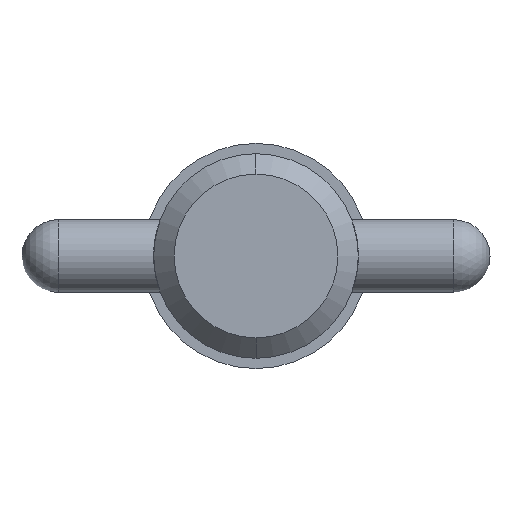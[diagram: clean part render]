
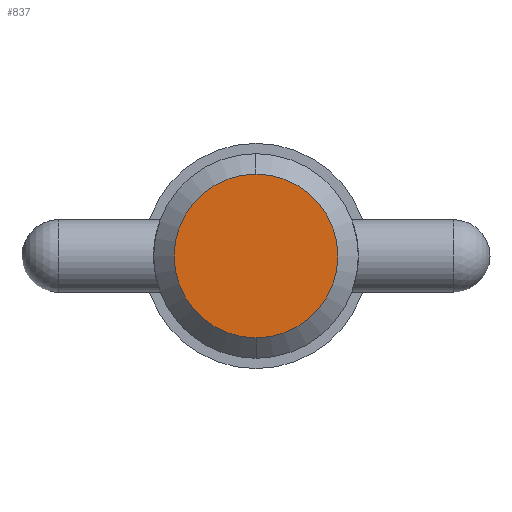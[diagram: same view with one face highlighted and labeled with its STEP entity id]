
A CAD part, left-side view. The second image highlights one B-rep face of the part: STEP entity #837.
In plain terms, the highlighted planar face has unit normal (-1, 0, 0).
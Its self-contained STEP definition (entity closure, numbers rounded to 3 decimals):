
#6 = EDGE_CURVE ( 'NONE', #314, #934, #778, .T. ) ;
#43 = DIRECTION ( 'NONE',  ( 0., 0., -1. ) ) ;
#45 = CARTESIAN_POINT ( 'NONE',  ( 0., 0., 4.444 ) ) ;
#79 = ORIENTED_EDGE ( 'NONE', *, *, #157, .F. ) ;
#110 = DIRECTION ( 'NONE',  ( -1., 0., 0. ) ) ;
#118 = CIRCLE ( 'NONE', #822, 4.444 ) ;
#157 = EDGE_CURVE ( 'NONE', #934, #314, #118, .T. ) ;
#314 = VERTEX_POINT ( 'NONE', #980 ) ;
#325 = AXIS2_PLACEMENT_3D ( 'NONE', #908, #988, #43 ) ;
#471 = CARTESIAN_POINT ( 'NONE',  ( 0., 0., 0. ) ) ;
#486 = ORIENTED_EDGE ( 'NONE', *, *, #6, .F. ) ;
#507 = FACE_OUTER_BOUND ( 'NONE', #731, .T. ) ;
#731 = EDGE_LOOP ( 'NONE', ( #486, #79 ) ) ;
#751 = CARTESIAN_POINT ( 'NONE',  ( 0., 0., 0. ) ) ;
#778 = CIRCLE ( 'NONE', #325, 4.444 ) ;
#822 = AXIS2_PLACEMENT_3D ( 'NONE', #471, #1028, #858 ) ;
#829 = PLANE ( 'NONE',  #1022 ) ;
#837 = ADVANCED_FACE ( 'NONE', ( #507 ), #829, .T. ) ;
#858 = DIRECTION ( 'NONE',  ( 0., 0., -1. ) ) ;
#908 = CARTESIAN_POINT ( 'NONE',  ( 0., 0., 0. ) ) ;
#910 = DIRECTION ( 'NONE',  ( 0., 0., 1. ) ) ;
#934 = VERTEX_POINT ( 'NONE', #45 ) ;
#980 = CARTESIAN_POINT ( 'NONE',  ( 0., 0., -4.444 ) ) ;
#988 = DIRECTION ( 'NONE',  ( 1., 0., 0. ) ) ;
#1022 = AXIS2_PLACEMENT_3D ( 'NONE', #751, #110, #910 ) ;
#1028 = DIRECTION ( 'NONE',  ( 1., 0., 0. ) ) ;
